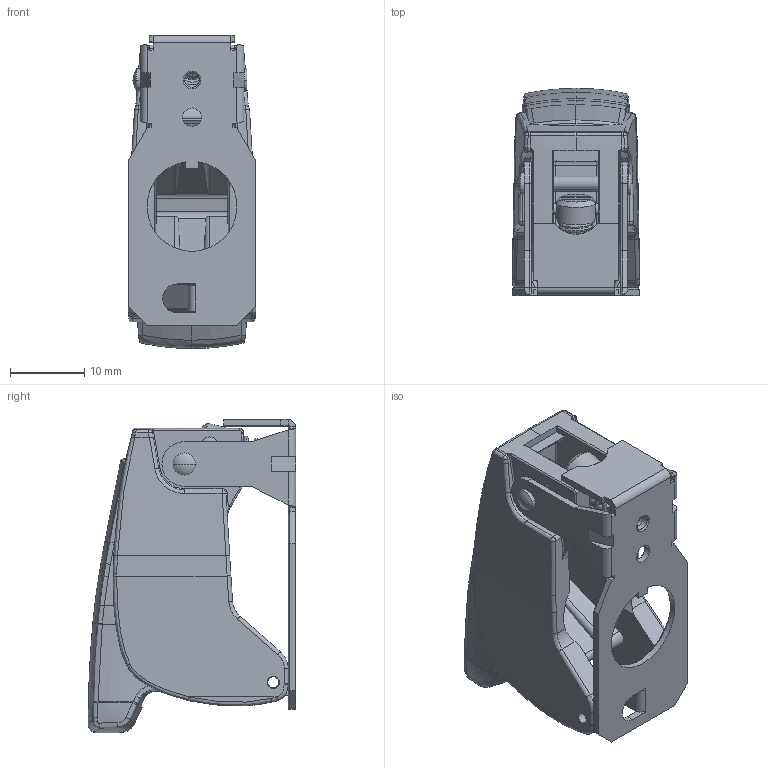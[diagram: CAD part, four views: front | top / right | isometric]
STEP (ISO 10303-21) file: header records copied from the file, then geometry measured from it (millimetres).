
FILE_DESCRIPTION((''),'2;1');
FILE_NAME('MSG33KN','2014-06-25T',('francis'),(''),'PRO/ENGINEER BY PARAMETRIC TECHNOLOGY CORPORATION, 2013410','PRO/ENGINEER BY PARAMETRIC TECHNOLOGY CORPORATION, 2013410','');
FILE_SCHEMA(('CONFIG_CONTROL_DESIGN'));
Length unit declared in the file: millimetre
Products named in the file (1): MSG33KN
Bounding box: 17.16 x 27.9 x 42.15 mm (x, y, z)
Volume: 7654.4 mm3; surface area: 6611.8 mm2
Topology: 3 solids, 5 shells, 709 faces, 1789 edges, 1094 vertices
Faces by surface type: plane 287, cylinder 201, bspline 141, torus 34, cone 23, extrusion 13, sphere 10
Entity records: 33627 total; most frequent: CARTESIAN_POINT 17977, ORIENTED_EDGE 3560, DIRECTION 2737, EDGE_CURVE 1780, VERTEX_POINT 1094, VECTOR 933, LINE 920, AXIS2_PLACEMENT_3D 902
